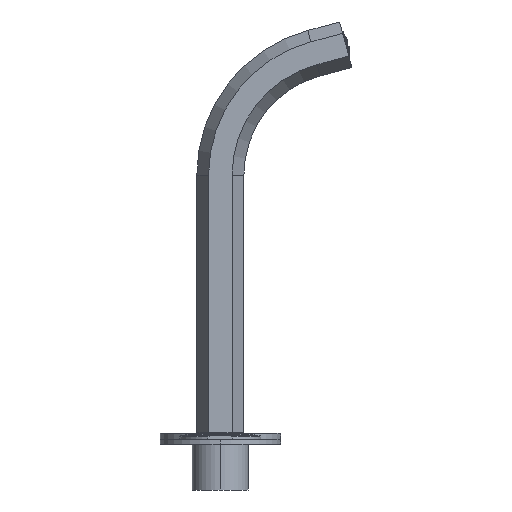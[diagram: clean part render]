
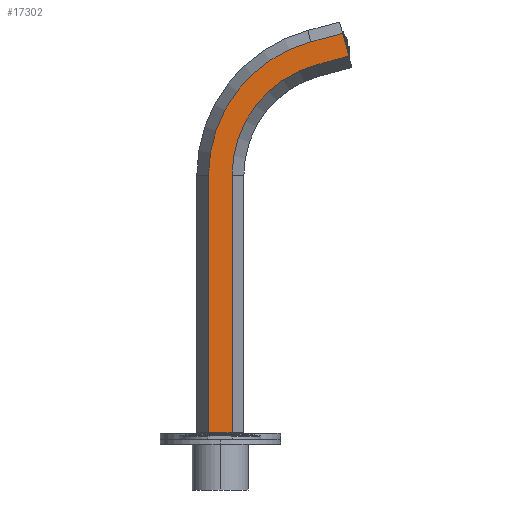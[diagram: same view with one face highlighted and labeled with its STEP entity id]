
A CAD part, left-side view. The second image highlights one B-rep face of the part: STEP entity #17302.
In plain terms, the highlighted planar face has unit normal (-1, 0, 0).
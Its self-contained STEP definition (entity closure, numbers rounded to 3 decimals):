
#1419=DIRECTION('',(0.,0.259,0.966));
#1420=VECTOR('',#1419,12.124);
#1421=CARTESIAN_POINT('',(-10.5,-66.167,234.529));
#1422=LINE('',#1421,#1420);
#9074=DIRECTION('',(0.,0.966,-0.259));
#9075=VECTOR('',#9074,17.);
#9076=CARTESIAN_POINT('',(-10.5,-63.028,246.241));
#9077=LINE('',#9076,#9075);
#9081=DIRECTION('',(0.,0.,-1.));
#9082=VECTOR('',#9081,132.7);
#9083=CARTESIAN_POINT('',(-10.5,-6.062,173.2));
#9084=LINE('',#9083,#9082);
#9088=DIRECTION('',(0.,1.,0.));
#9089=VECTOR('',#9088,12.124);
#9090=CARTESIAN_POINT('',(-10.5,-6.062,40.5));
#9091=LINE('',#9090,#9089);
#9095=DIRECTION('',(0.,0.966,-0.259));
#9096=VECTOR('',#9095,17.);
#9097=CARTESIAN_POINT('',(-10.5,-66.167,234.529));
#9098=LINE('',#9097,#9096);
#9102=CARTESIAN_POINT('',(-10.5,-65.,173.2));
#9103=DIRECTION('',(-1.,0.,0.));
#9104=DIRECTION('',(0.,0.259,0.966));
#9105=AXIS2_PLACEMENT_3D('',#9102,#9103,#9104);
#9168=DIRECTION('',(0.,0.,-1.));
#9169=VECTOR('',#9168,132.7);
#9170=CARTESIAN_POINT('',(-10.5,6.062,173.2));
#9171=LINE('',#9170,#9169);
#9196=CARTESIAN_POINT('',(-10.5,-65.,173.2));
#9197=DIRECTION('',(-1.,0.,0.));
#9198=DIRECTION('',(0.,0.259,0.966));
#9199=AXIS2_PLACEMENT_3D('',#9196,#9197,#9198);
#9374=CARTESIAN_POINT('',(-10.5,-66.167,234.529));
#9375=VERTEX_POINT('',#9374);
#9376=CARTESIAN_POINT('',(-10.5,-63.028,246.241));
#9377=VERTEX_POINT('',#9376);
#9384=CARTESIAN_POINT('',(-10.5,-49.746,230.13));
#9385=VERTEX_POINT('',#9384);
#9386=CARTESIAN_POINT('',(-10.5,-46.608,241.841));
#9388=VERTEX_POINT('',#9386);
#9396=CARTESIAN_POINT('',(-10.5,-6.062,173.2));
#9397=VERTEX_POINT('',#9396);
#9398=CARTESIAN_POINT('',(-10.5,6.062,173.2));
#9400=VERTEX_POINT('',#9398);
#9414=CARTESIAN_POINT('',(-10.5,-6.062,40.5));
#9415=VERTEX_POINT('',#9414);
#9416=CARTESIAN_POINT('',(-10.5,6.062,40.5));
#9417=VERTEX_POINT('',#9416);
#17281=CARTESIAN_POINT('',(-10.5,-66.167,234.529));
#17282=DIRECTION('',(-1.,0.,0.));
#17283=DIRECTION('',(0.,0.259,0.966));
#17284=AXIS2_PLACEMENT_3D('',#17281,#17282,#17283);
#17285=PLANE('',#17284);
#17287=ORIENTED_EDGE('',*,*,#17286,.T.);
#17289=ORIENTED_EDGE('',*,*,#17288,.T.);
#17291=ORIENTED_EDGE('',*,*,#17290,.F.);
#17293=ORIENTED_EDGE('',*,*,#17292,.F.);
#17294=ORIENTED_EDGE('',*,*,#17273,.F.);
#17295=ORIENTED_EDGE('',*,*,#11600,.F.);
#17297=ORIENTED_EDGE('',*,*,#17296,.T.);
#17299=ORIENTED_EDGE('',*,*,#17298,.T.);
#17300=EDGE_LOOP('',(#17287,#17289,#17291,#17293,#17294,#17295,#17297,#17299));
#17301=FACE_OUTER_BOUND('',#17300,.F.);
#9106=CIRCLE('',#9105,58.938);
#9200=CIRCLE('',#9199,71.062);
#11600=EDGE_CURVE('',#9375,#9377,#1422,.T.);
#17273=EDGE_CURVE('',#9377,#9388,#9077,.T.);
#17286=EDGE_CURVE('',#9397,#9415,#9084,.T.);
#17288=EDGE_CURVE('',#9415,#9417,#9091,.T.);
#17290=EDGE_CURVE('',#9400,#9417,#9171,.T.);
#17292=EDGE_CURVE('',#9388,#9400,#9200,.T.);
#17296=EDGE_CURVE('',#9375,#9385,#9098,.T.);
#17298=EDGE_CURVE('',#9385,#9397,#9106,.T.);
#17302=ADVANCED_FACE('',(#17301),#17285,.T.);
